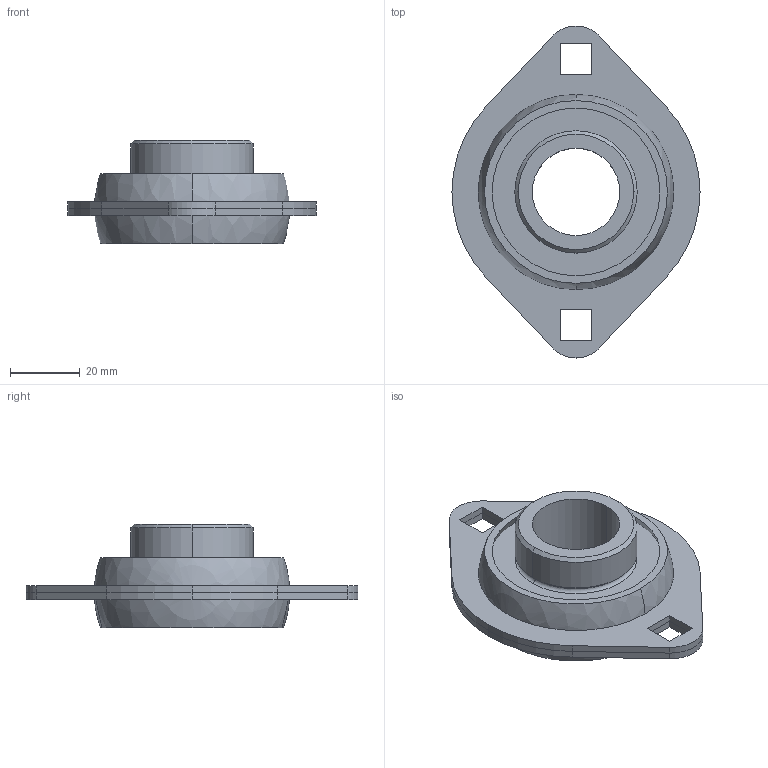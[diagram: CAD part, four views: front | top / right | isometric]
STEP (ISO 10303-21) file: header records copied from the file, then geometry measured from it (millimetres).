
FILE_DESCRIPTION (( 'STEP AP203' ), '1' );
FILE_NAME ('SBPFL 205.STEP', '2015-05-22T15:03:26', ( '' ), ( '' ), 'SwSTEP 2.0', 'SolidWorks 2012', '' );
FILE_SCHEMA (( 'CONFIG_CONTROL_DESIGN' ));
Length unit declared in the file: millimetre
Products named in the file (1): SBPFL 205
Bounding box: 71 x 95 x 29.5 mm (x, y, z)
Volume: 43473.3 mm3; surface area: 25239.1 mm2
Topology: 3 solids, 3 shells, 65 faces, 175 edges, 113 vertices
Faces by surface type: plane 33, cylinder 16, sphere 10, torus 4, cone 2
Entity records: 2061 total; most frequent: DIRECTION 366, CARTESIAN_POINT 334, ORIENTED_EDGE 324, EDGE_CURVE 162, AXIS2_PLACEMENT_3D 138, VERTEX_POINT 106, VECTOR 90, LINE 90
